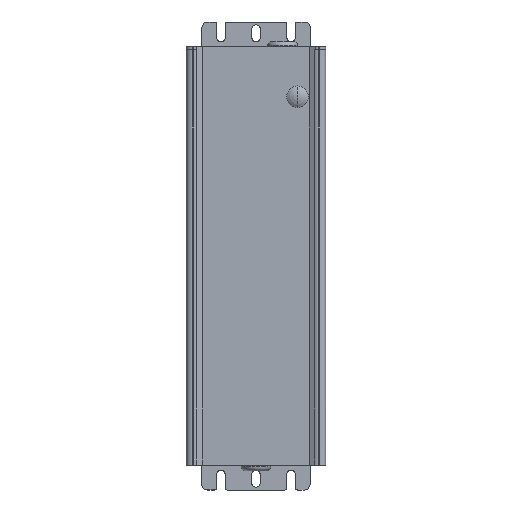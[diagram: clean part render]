
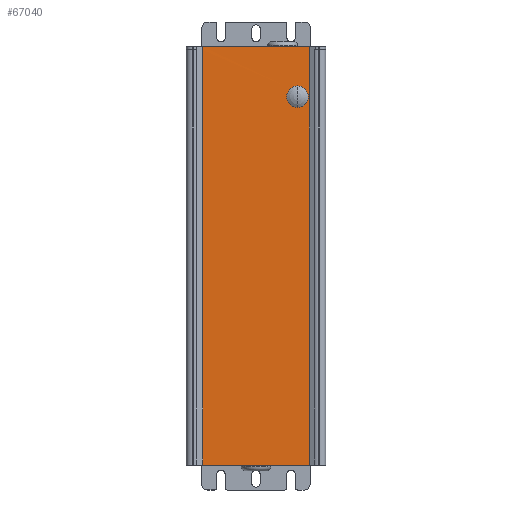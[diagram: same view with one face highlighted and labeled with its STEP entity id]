
A CAD part, left-side view. The second image highlights one B-rep face of the part: STEP entity #67040.
In plain terms, the highlighted planar face has unit normal (-1, 0, 0) as drawn and (0, 1, 0) by its records, which use the part's own axes.
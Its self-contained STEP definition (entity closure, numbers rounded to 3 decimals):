
#3590=CARTESIAN_POINT('',(2003.285,-2415.053,
14.6));
#3600=VERTEX_POINT('',#3590);
#3630=CARTESIAN_POINT('',(1951.285,-2415.053,
14.6));
#3640=DIRECTION('',(1.,0.,0.));
#3650=VECTOR('',#3640,1.);
#3660=LINE('',#3630,#3650);
#3670=CARTESIAN_POINT('',(1951.285,-2415.053,
14.6));
#3680=VERTEX_POINT('',#3670);
#3690=EDGE_CURVE('',#3680,#3600,#3660,.T.);
#21760=CARTESIAN_POINT('',(1951.235,-2415.053,
218.6));
#21770=VERTEX_POINT('',#21760);
#21800=CARTESIAN_POINT('',(2003.235,-2415.053,
218.6));
#21810=DIRECTION('',(-1.,0.,0.));
#21820=VECTOR('',#21810,1.);
#21830=LINE('',#21800,#21820);
#21840=CARTESIAN_POINT('',(2003.247,-2415.075,
218.6));
#21850=VERTEX_POINT('',#21840);
#21860=EDGE_CURVE('',#21850,#21770,#21830,.T.);
#66120=CARTESIAN_POINT('',(1951.285,-2415.053,15.));
#66130=DIRECTION('',(0.,1.,0.));
#66140=DIRECTION('',(1.,0.,0.));
#66150=AXIS2_PLACEMENT_3D('',#66120,#66130,#66140);
#66160=PLANE('',#66150);
#66170=CARTESIAN_POINT('',(1957.035,-2415.053,
194.2));
#66180=DIRECTION('',(0.,-1.,0.));
#66190=DIRECTION('',(1.,0.,0.));
#66200=AXIS2_PLACEMENT_3D('',#66170,#66180,#66190);
#66210=CIRCLE('',#66200,5.25);
#66220=CARTESIAN_POINT('',(1962.285,-2415.053,
194.2));
#66230=VERTEX_POINT('',#66220);
#66240=CARTESIAN_POINT('',(1951.785,-2415.053,
194.2));
#66250=VERTEX_POINT('',#66240);
#66260=EDGE_CURVE('',#66230,#66250,#66210,.T.);
#66270=ORIENTED_EDGE('',*,*,#66260,.T.);
#66280=EDGE_CURVE('',#66250,#66230,#66210,.T.);
#66290=ORIENTED_EDGE('',*,*,#66280,.T.);
#66300=EDGE_LOOP('',(#66290,#66270));
#66310=FACE_BOUND('',#66300,.T.);
#66320=ORIENTED_EDGE('',*,*,#3690,.F.);
#66330=CARTESIAN_POINT('',(2003.285,-2415.053,
14.6));
#66340=DIRECTION('',(0.,0.,
1.));
#66350=VECTOR('',#66340,1.);
#66360=LINE('',#66330,#66350);
#66370=CARTESIAN_POINT('',(2003.285,-2415.053,16.2));
#66380=VERTEX_POINT('',#66370);
#66390=EDGE_CURVE('',#3600,#66380,#66360,.T.);
#66400=ORIENTED_EDGE('',*,*,#66390,.F.);
#66410=CARTESIAN_POINT('',(2003.285,-2415.053,16.2));
#66420=DIRECTION('',(0.,0.,1.));
#66430=VECTOR('',#66420,1.);
#66440=LINE('',#66410,#66430);
#66450=CARTESIAN_POINT('',(2003.285,-2415.053,
30.769));
#66460=VERTEX_POINT('',#66450);
#66470=EDGE_CURVE('',#66380,#66460,#66440,.T.);
#66480=ORIENTED_EDGE('',*,*,#66470,.F.);
#66490=CARTESIAN_POINT('',(2003.285,-2415.053,0.));
#66500=DIRECTION('',(0.,0.,-1.));
#66510=VECTOR('',#66500,1.);
#66520=LINE('',#66490,#66510);
#66530=CARTESIAN_POINT('',(2003.285,-2415.053,
46.969));
#66540=VERTEX_POINT('',#66530);
#66550=EDGE_CURVE('',#66540,#66460,#66520,.T.);
#66560=ORIENTED_EDGE('',*,*,#66550,.T.);
#66570=CARTESIAN_POINT('',(2003.285,-2415.053,0.));
#66580=DIRECTION('',(0.,0.,1.));
#66590=VECTOR('',#66580,1.);
#66600=LINE('',#66570,#66590);
#66610=CARTESIAN_POINT('',(2003.285,-2415.053,
217.));
#66620=VERTEX_POINT('',#66610);
#66630=EDGE_CURVE('',#66540,#66620,#66600,.T.);
#66640=ORIENTED_EDGE('',*,*,#66630,.F.);
#66650=CARTESIAN_POINT('',(2003.285,-2415.053,
217.));
#66660=DIRECTION('',(-0.866,-0.5,0.));
#66670=VECTOR('',#66660,1.);
#66680=LINE('',#66650,#66670);
#66690=CARTESIAN_POINT('',(2003.241,-2415.053,
217.));
#66700=VERTEX_POINT('',#66690);
#66710=EDGE_CURVE('',#66620,#66700,#66680,.T.);
#66720=ORIENTED_EDGE('',*,*,#66710,.F.);
#66730=CARTESIAN_POINT('',(2003.235,-2415.053,
218.6));
#66740=DIRECTION('',(0.,0.,-1.));
#66750=VECTOR('',#66740,1.);
#66760=LINE('',#66730,#66750);
#66770=EDGE_CURVE('',#21850,#66700,#66760,.T.);
#66780=ORIENTED_EDGE('',*,*,#66770,.T.);
#66790=ORIENTED_EDGE('',*,*,#21860,.F.);
#66800=CARTESIAN_POINT('',(1951.247,-2415.032,
218.6));
#66810=DIRECTION('',(0.,0.,-1.));
#66820=VECTOR('',#66810,1.);
#66830=LINE('',#66800,#66820);
#66840=CARTESIAN_POINT('',(1951.247,-2415.032,217.));
#66850=VERTEX_POINT('',#66840);
#66860=EDGE_CURVE('',#21770,#66850,#66830,.T.);
#66870=ORIENTED_EDGE('',*,*,#66860,.F.);
#66880=CARTESIAN_POINT('',(1951.247,-2415.032,217.));
#66890=DIRECTION('',(0.866,-0.5,0.));
#66900=VECTOR('',#66890,1.);
#66910=LINE('',#66880,#66900);
#66920=CARTESIAN_POINT('',(1951.285,-2415.053,217.));
#66930=VERTEX_POINT('',#66920);
#66940=EDGE_CURVE('',#66850,#66930,#66910,.T.);
#66950=ORIENTED_EDGE('',*,*,#66940,.F.);
#66960=CARTESIAN_POINT('',(1951.285,-2415.053,-1.6));
#66970=DIRECTION('',(0.,0.,1.));
#66980=VECTOR('',#66970,1.);
#66990=LINE('',#66960,#66980);
#67000=EDGE_CURVE('',#3680,#66930,#66990,.T.);
#67010=ORIENTED_EDGE('',*,*,#67000,.T.);
#67020=EDGE_LOOP('',(#67010,#66950,#66870,#66790,#66780,#66720,#66640,
#66560,#66480,#66400,#66320));
#67030=FACE_OUTER_BOUND('',#67020,.T.);
#67040=ADVANCED_FACE('',(#66310,#67030),#66160,.T.);
